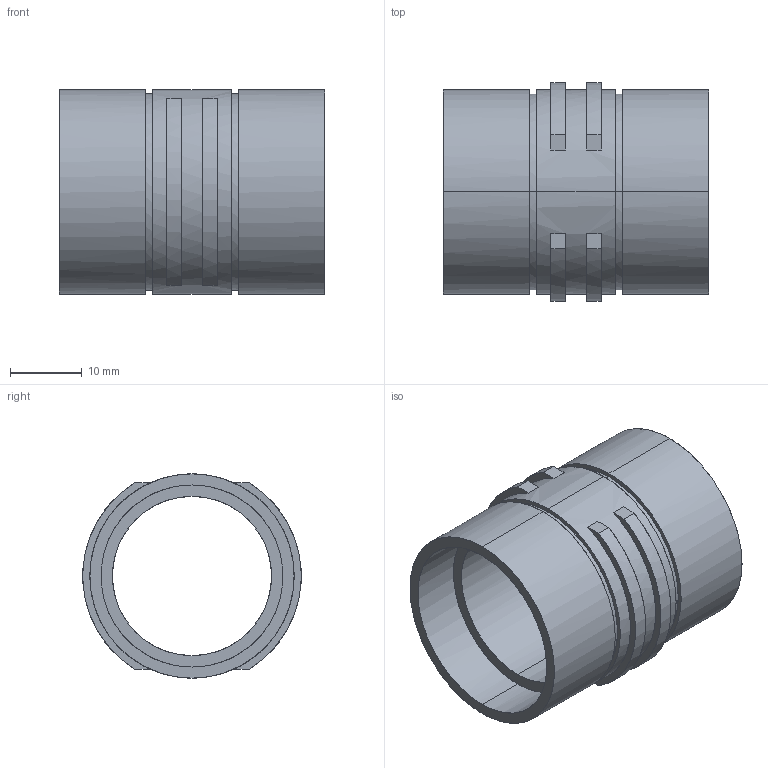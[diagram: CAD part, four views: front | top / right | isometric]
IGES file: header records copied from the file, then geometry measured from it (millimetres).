
Start section: Comment
Global section: file name: 70-25.4U-P.igs; native system:  By Spatial Corp.; preprocessor: XPlus GENERIC/IGES 3.0; author: Author; organization: Title; date: 20100222.110416; units: inch
Bounding box: 37 x 30.42 x 28.5 mm (x, y, z)
Surface area: 7006.5 mm2 (no closed solid volume)
Topology: 0 solids, 0 shells, 44 faces, 192 edges, 192 vertices
Faces by surface type: bspline 44
